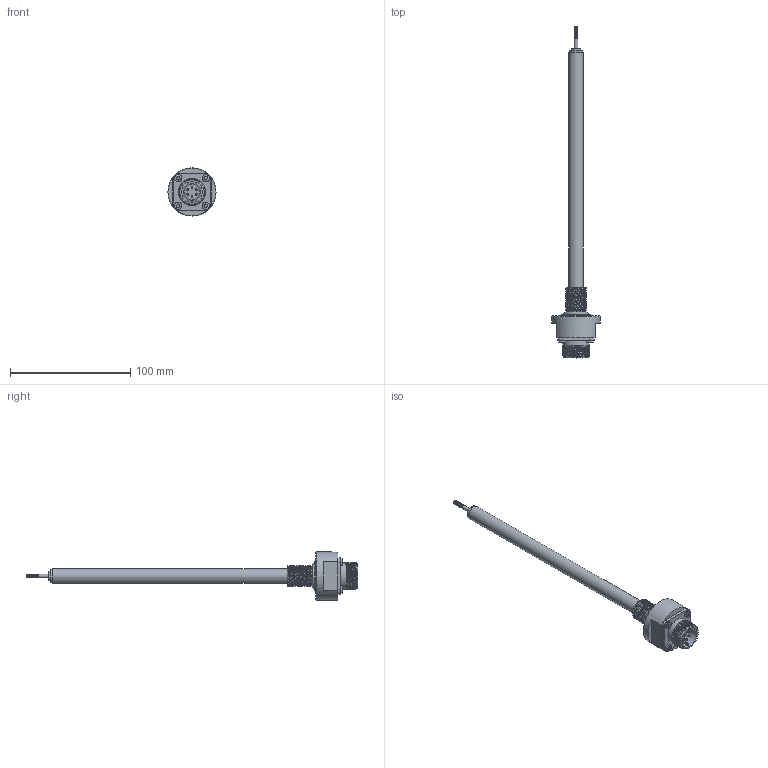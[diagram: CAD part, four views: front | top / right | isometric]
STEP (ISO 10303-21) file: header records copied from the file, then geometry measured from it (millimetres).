
FILE_DESCRIPTION( ( 'STEP AP214' ), '1' );
FILE_NAME( 'N:/Engineering/CAD_Solid/LVDT/HYD/Kunden-3D-Modell/SM100-HYD-18-S.stp', '2011-12-14T13:51:05', ( ' ' ), ( ' ' ), 'XStep 1.0', ' ', ' ' );
FILE_SCHEMA( ( 'CONFIG_CONTROL_DESIGN) ( )' ) );
Length unit declared in the file: metre
Products named in the file (17): 1; 2; 3; 4; 5; 6; 7; 8; 9; 10; 11; 12; 13; 14; 15; 16; 17
Bounding box: 40 x 275.9 x 40 mm (x, y, z)
Surface area: 20688.2 mm2
Topology: 1 solids, 130 shells, 138 faces, 619 edges, 574 vertices
Faces by surface type: plane 76, cylinder 37, bspline 13, cone 7, sphere 4, torus 1
Full cylindrical faces by diameter (mm): 1.6 x6, 2.4 x1, 3 x1, 4 x1, 6 x4, 8 x1, 11 x1, 12 x1, 15.8 x1, 17.6 x1, 20.2 x1, 22.3 x7, 24 x1, 40 x1
Entity records: 16745 total; most frequent: CARTESIAN_POINT 11462, DIRECTION 999, ORIENTED_EDGE 546, EDGE_CURVE 546, VERTEX_POINT 546, AXIS2_PLACEMENT_3D 374, LINE 251, VECTOR 251
